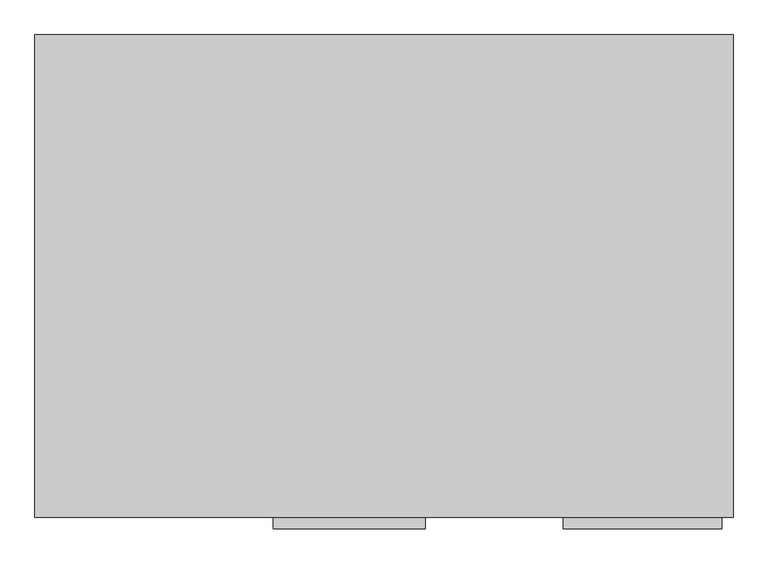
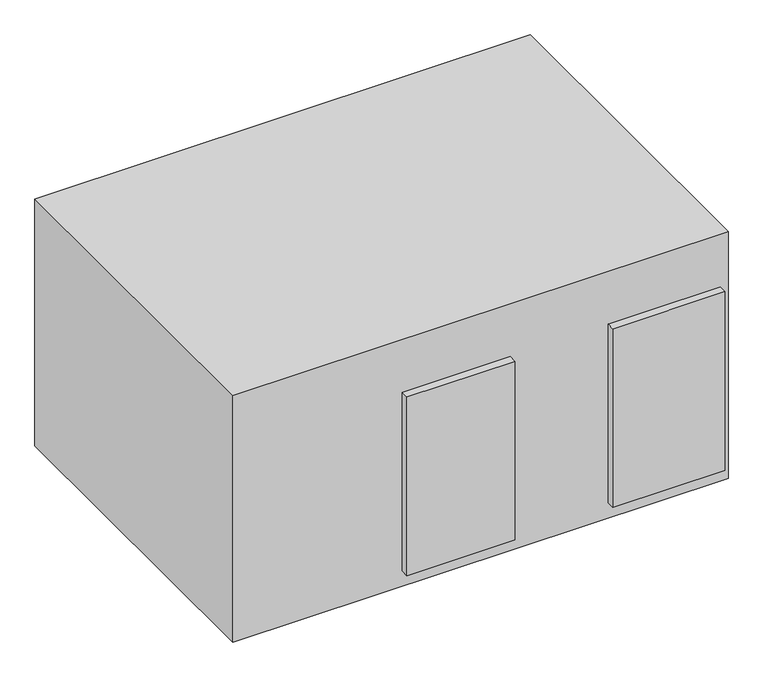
"""IFC4 building model written with IfcOpenShell, lengths in millimetres: proxy geometry, AC - Trane - 15-25 Ton : AC - Trane - 15-25 Ton."""

import ifcopenshell
import ifcopenshell.guid

model = None  # the IFC model being written
_history = None  # IfcOwnerHistory: only IFC2X3 demands one
_inside = {}  # id of a spatial element -> (the spatial element, [elements in it])
_under = {}  # id of a project, library or spatial element -> (it, [spatial elements below it])
_declared = {}  # id of a project -> (the project, [libraries it declares])
_typed = {}  # id of a type object -> (the type object, [elements of that type])
_made_of = {}  # id of a material, layer set ... -> (it, [elements and type objects made of it])


def new_model(schema):
    """Start an empty IFC model of exactly this schema.

    Asked for "IFC4X3", IfcOpenShell would pick the latest addendum, in which some entities
    have other attributes; the version numbers below select the first issue.
    IFC2X3 requires an IfcOwnerHistory on every rooted entity: one is made here for all.
    """
    global model, _history
    if schema == "IFC4X3":
        model = ifcopenshell.file(schema_version=(4, 3, 0, 0))
    else:
        model = ifcopenshell.file(schema=schema)
    _inside.clear()
    _under.clear()
    _declared.clear()
    _typed.clear()
    _made_of.clear()
    _history = None
    if model.schema == "IFC2X3":
        org = make("IfcOrganization", Name="unknown")
        user = make(
            "IfcPersonAndOrganization",
            ThePerson=make("IfcPerson", FamilyName="unknown"),
            TheOrganization=org,
        )
        app = make(
            "IfcApplication",
            ApplicationDeveloper=org,
            Version="unknown",
            ApplicationFullName="unknown",
            ApplicationIdentifier="unknown",
        )
        _history = make(
            "IfcOwnerHistory",
            OwningUser=user,
            OwningApplication=app,
            ChangeAction="ADDED",
            CreationDate=0,
        )
    return model


def make(cls, **values):
    """One entity of the class cls with the attributes given. An attribute that is None is left unset."""
    return model.create_entity(
        cls, **{name: value for name, value in values.items() if value is not None}
    )


def rooted(cls, **values):
    """An entity with a GlobalId (a new one), such as an element, a storey or a relation."""
    return make(cls, GlobalId=ifcopenshell.guid.new(), OwnerHistory=_history, **values)


def si_unit(unit_type, name, prefix=None):
    """IfcSIUnit, for example si_unit("LENGTHUNIT", "METRE", prefix="MILLI")."""
    return make("IfcSIUnit", UnitType=unit_type, Prefix=prefix, Name=name)


def assignment(units):
    """IfcUnitAssignment: the units of a project."""
    return None if units is None else make("IfcUnitAssignment", Units=units)


def point(xyz):
    """IfcCartesianPoint."""
    return None if xyz is None else make("IfcCartesianPoint", Coordinates=xyz)


def direction(xyz):
    """IfcDirection."""
    return None if xyz is None else make("IfcDirection", DirectionRatios=xyz)


def frame(location, z_axis=None, x_axis=None):
    """IfcAxis2Placement3D, a coordinate frame: its origin and axes. An axis left out is left unset."""
    return make(
        "IfcAxis2Placement3D",
        Location=point(location),
        Axis=direction(z_axis),
        RefDirection=direction(x_axis),
    )


def origin():
    """The frame at (0, 0, 0) with its axes left unset."""
    return frame((0.0, 0.0, 0.0))


def origin_with_axes():
    """The frame at (0, 0, 0) with the z axis (0, 0, 1) and the x axis (1, 0, 0) written out."""
    return frame((0.0, 0.0, 0.0), z_axis=(0.0, 0.0, 1.0), x_axis=(1.0, 0.0, 0.0))


def place(relative_to, where):
    """IfcLocalPlacement: puts the frame where relative to a parent placement (None: the world)."""
    return make(
        "IfcLocalPlacement", PlacementRelTo=relative_to, RelativePlacement=where
    )


def context(
    kind, dimensions, precision=None, world=None, true_north=None, identifier=None
):
    """IfcGeometricRepresentationContext, for example the 3D "Model" context."""
    return make(
        "IfcGeometricRepresentationContext",
        ContextIdentifier=identifier,
        ContextType=kind,
        CoordinateSpaceDimension=dimensions,
        Precision=precision,
        WorldCoordinateSystem=world,
        TrueNorth=true_north,
    )


def project(units=None, contexts=None):
    """IfcProject with its units and contexts."""
    return rooted(
        "IfcProject",
        Name="project",
        RepresentationContexts=contexts,
        UnitsInContext=assignment(units),
    )


def spatial(cls, under=None, at=None, **own):
    """A site, building, storey or space (cls), placed at a placement, below another one or the project."""
    s = rooted(cls, ObjectPlacement=at, **own)
    if under is not None:
        _under.setdefault(under.id(), (under, []))[1].append(s)
    return s


def polyline(points):
    """IfcPolyline through the points."""
    return make("IfcPolyline", Points=[point(p) for p in points])


def outline(outer, holes=None, kind="AREA"):
    """IfcArbitraryClosedProfileDef: a profile drawn as a closed curve; with holes, ...WithVoids."""
    if holes is None:
        return make("IfcArbitraryClosedProfileDef", ProfileType=kind, OuterCurve=outer)
    return make(
        "IfcArbitraryProfileDefWithVoids",
        ProfileType=kind,
        OuterCurve=outer,
        InnerCurves=holes,
    )


def extrude(swept, where, along, depth):
    """IfcExtrudedAreaSolid: the profile swept, set in the frame where, extruded along a direction by depth."""
    return make(
        "IfcExtrudedAreaSolid",
        SweptArea=swept,
        Position=where,
        ExtrudedDirection=direction(along),
        Depth=depth,
    )


def shape(context_of_items, identifier, shape_type, items):
    """IfcShapeRepresentation: the items that make up one representation, for example the "Body"."""
    return make(
        "IfcShapeRepresentation",
        ContextOfItems=context_of_items,
        RepresentationIdentifier=identifier,
        RepresentationType=shape_type,
        Items=items,
    )


def source(mapping_origin, context_of_items, identifier, shape_type, items):
    """IfcRepresentationMap: a shape defined once, which mapped items show again and again."""
    return make(
        "IfcRepresentationMap",
        MappingOrigin=mapping_origin,
        MappedRepresentation=shape(context_of_items, identifier, shape_type, items),
    )


def transform(
    local_origin,
    x_axis=None,
    y_axis=None,
    z_axis=None,
    scale=None,
    scale2=None,
    scale3=None,
    uniform=True,
):
    """IfcCartesianTransformationOperator3D, or its non-uniform kind. x_axis, y_axis, z_axis: its Axis1, 2, 3."""
    if uniform:
        return make(
            "IfcCartesianTransformationOperator3D",
            Axis1=direction(x_axis),
            Axis2=direction(y_axis),
            LocalOrigin=point(local_origin),
            Scale=scale,
            Axis3=direction(z_axis),
        )
    return make(
        "IfcCartesianTransformationOperator3DnonUniform",
        Axis1=direction(x_axis),
        Axis2=direction(y_axis),
        LocalOrigin=point(local_origin),
        Scale=scale,
        Axis3=direction(z_axis),
        Scale2=scale2,
        Scale3=scale3,
    )


def mapped(mapping_source, mapping_target):
    """IfcMappedItem: shows the shape of a source again, moved by a transform."""
    return make(
        "IfcMappedItem", MappingSource=mapping_source, MappingTarget=mapping_target
    )


def made_of(thing, what):
    """Note that an element or type object is made of a material, layer set ...; save() writes the relation."""
    if what is not None:
        _made_of.setdefault(what.id(), (what, []))[1].append(thing)
    return thing


def element(
    cls,
    number,
    at=None,
    inside=None,
    cuts=None,
    type_object=None,
    material=None,
    context=None,
    identifier="Body",
    shape_type=None,
    held_by="IfcProductDefinitionShape",
    body=None,
    shapes=None,
    **own,
):
    """One element of the class cls, such as IfcWall. Its Tag is "e" and its number.

    at: its placement. inside: the storey or other place that contains it. cuts: it is an
    opening in that element (IfcRelVoidsElement). A single representation is given by context,
    identifier, shape_type and body (its items); several are given by shapes. held_by: the class
    of the entity that holds the representations. save() writes the other relations.
    """
    e = rooted(cls, Tag="e%d" % number, ObjectPlacement=at, **own)
    if body is not None:
        shapes = [shape(context, identifier, shape_type, body)]
    if shapes is not None:
        e.Representation = make(held_by, Representations=shapes)
    if inside is not None:
        _inside.setdefault(inside.id(), (inside, []))[1].append(e)
    if cuts is not None:
        rooted(
            "IfcRelVoidsElement", RelatingBuildingElement=cuts, RelatedOpeningElement=e
        )
    if type_object is not None:
        _typed.setdefault(type_object.id(), (type_object, []))[1].append(e)
    return made_of(e, material)


def aggregate(whole, parts):
    """IfcRelAggregates: a whole, such as a stair, and the parts it consists of."""
    return rooted("IfcRelAggregates", RelatingObject=whole, RelatedObjects=parts)


def save(model, path):
    """Write the relations noted so far, then the file.

    IfcRelAggregates (storeys below a building ...), IfcRelContainedInSpatialStructure (elements
    in a storey), IfcRelDefinesByType, IfcRelAssociatesMaterial and IfcRelDeclares: one each for
    every whole, place, type object, material and project.
    """
    for whole, parts in _under.values():
        aggregate(whole, parts)
    for where, things in _inside.values():
        rooted(
            "IfcRelContainedInSpatialStructure",
            RelatedElements=things,
            RelatingStructure=where,
        )
    for kind, things in _typed.values():
        rooted("IfcRelDefinesByType", RelatedObjects=things, RelatingType=kind)
    for what, things in _made_of.values():
        rooted("IfcRelAssociatesMaterial", RelatedObjects=things, RelatingMaterial=what)
    for by, libraries in _declared.values():
        rooted("IfcRelDeclares", RelatingContext=by, RelatedDefinitions=libraries)
    model.write(path)


def mechanical_equipment_75d9a657(model_context):
    return source(origin(), model_context, "Body", "SweptSolid", [
        extrude(outline(polyline([(183.35625, -1119.98125), (-489.74375, -1119.98125), (-489.74375, -1069.18125), (183.35625, -1069.18125), (183.35625, -1119.98125)])), frame((0.0, 0.0, 100.0125), z_axis=(0.0, 0.0, 1.0), x_axis=(1.0, 0.0, 0.0)), (0.0, 0.0, 1.0), 1179.5125),
        extrude(outline(polyline([(1494.63125, -1119.98125), (794.54375, -1119.98125), (794.54375, -1069.18125), (1494.63125, -1069.18125), (1494.63125, -1119.98125)])), frame((0.0, 0.0, 100.0125), z_axis=(0.0, 0.0, 1.0), x_axis=(1.0, 0.0, 0.0)), (0.0, 0.0, 1.0), 1179.5125),
        extrude(outline(polyline([(1545.43125, 1069.18125), (1545.43125, -1069.18125), (-1545.43125, -1069.18125), (-1545.43125, 1069.18125), (1545.43125, 1069.18125)])), origin_with_axes(), (0.0, 0.0, 1.0), 1628.775),
    ])


if __name__ == "__main__":
    model = new_model("IFC4")
    model_context = context("Model", 3, world=origin())
    ifc_project = project(units=[si_unit("LENGTHUNIT", "METRE", prefix="MILLI")], contexts=[model_context])
    site = spatial("IfcSite", under=ifc_project)
    building = spatial("IfcBuilding", under=site)
    placement = place(None, origin())
    mechanical_equipment_shape = mechanical_equipment_75d9a657(model_context)
    element("IfcBuildingElementProxy", 1, Name="AC - Trane - 15-25 Ton : AC - Trane - 15-25 Ton", ObjectType="AC - Trane - 15-25 Ton : AC - Trane - 15-25 Ton", at=placement, inside=building, context=model_context, shape_type="MappedRepresentation", body=[
        mapped(mechanical_equipment_shape, transform((0.0, 0.0, 0.0), x_axis=(1.0, 0.0, 0.0), y_axis=(0.0, 1.0, 0.0), z_axis=(0.0, 0.0, 1.0))),
    ])
    save(model, "model.ifc")
